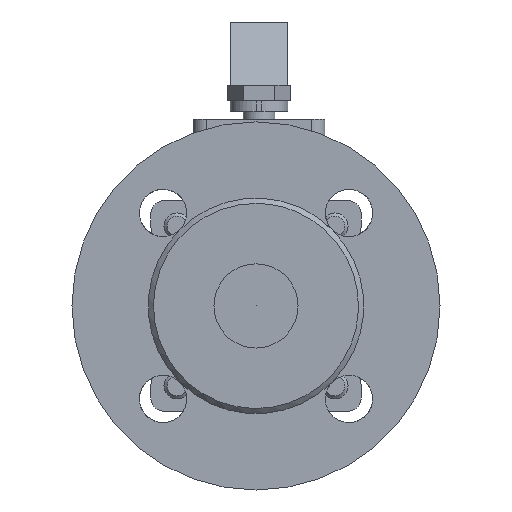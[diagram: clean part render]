
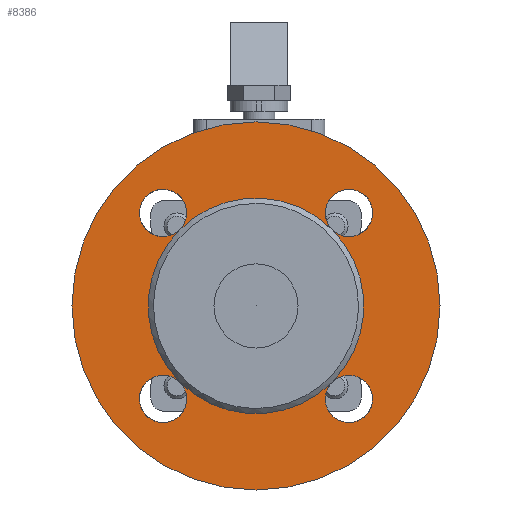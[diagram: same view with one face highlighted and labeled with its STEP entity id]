
A CAD part, left-side view. The second image highlights one B-rep face of the part: STEP entity #8386.
In plain terms, the highlighted planar face has unit normal (-1, 0, 0).
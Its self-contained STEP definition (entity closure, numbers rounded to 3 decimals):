
#8386=ADVANCED_FACE('',(#15657,#15659),#15661,.T.);
#15657=FACE_BOUND('',#15658,.T.);
#15658=EDGE_LOOP('',(#21665,#21666));
#15659=FACE_BOUND('',#15660,.T.);
#15660=EDGE_LOOP('',(#21667,#21668,#21669,#21670,#21671,#21672,#21673,#21674,#21675,
#21676,#21677,#21678,#21679));
#15661=PLANE('',#15662);
#15662=AXIS2_PLACEMENT_3D('',#15663,#15664,#15665);
#15663=CARTESIAN_POINT('',(3152.18,1282.841,79.001));
#15664=DIRECTION('',(-1.,0.,0.));
#15665=DIRECTION('',(0.,-1.,0.));
#21665=ORIENTED_EDGE('',*,*,#24748,.F.);
#21666=ORIENTED_EDGE('',*,*,#24747,.F.);
#21667=ORIENTED_EDGE('',*,*,#24753,.T.);
#21668=ORIENTED_EDGE('',*,*,#24752,.T.);
#21669=ORIENTED_EDGE('',*,*,#24756,.T.);
#21670=ORIENTED_EDGE('',*,*,#24757,.T.);
#21671=ORIENTED_EDGE('',*,*,#24751,.T.);
#21672=ORIENTED_EDGE('',*,*,#24758,.T.);
#21673=ORIENTED_EDGE('',*,*,#24759,.T.);
#21674=ORIENTED_EDGE('',*,*,#24750,.T.);
#21675=ORIENTED_EDGE('',*,*,#24760,.T.);
#21676=ORIENTED_EDGE('',*,*,#24761,.T.);
#21677=ORIENTED_EDGE('',*,*,#24749,.T.);
#21678=ORIENTED_EDGE('',*,*,#24762,.T.);
#21679=ORIENTED_EDGE('',*,*,#24763,.T.);
#24747=EDGE_CURVE('',#29340,#29341,#29342,.T.);
#24748=EDGE_CURVE('',#29341,#29340,#29343,.T.);
#24749=EDGE_CURVE('',#29344,#29345,#29346,.T.);
#24750=EDGE_CURVE('',#29347,#29344,#29348,.T.);
#24751=EDGE_CURVE('',#29349,#29347,#29350,.T.);
#24752=EDGE_CURVE('',#29351,#29349,#29352,.T.);
#24753=EDGE_CURVE('',#29345,#29351,#29353,.T.);
#24756=EDGE_CURVE('',#29349,#29358,#29359,.T.);
#24757=EDGE_CURVE('',#29358,#29349,#29360,.T.);
#24758=EDGE_CURVE('',#29347,#29361,#29362,.T.);
#24759=EDGE_CURVE('',#29361,#29347,#29363,.T.);
#24760=EDGE_CURVE('',#29344,#29364,#29365,.T.);
#24761=EDGE_CURVE('',#29364,#29344,#29366,.T.);
#24762=EDGE_CURVE('',#29345,#29367,#29368,.T.);
#24763=EDGE_CURVE('',#29367,#29345,#29369,.T.);
#29340=VERTEX_POINT('',#40397);
#29341=VERTEX_POINT('',#40398);
#29342=CIRCLE('',#40399,70.);
#29343=CIRCLE('',#40403,70.);
#29344=VERTEX_POINT('',#40407);
#29345=VERTEX_POINT('',#40408);
#29346=CIRCLE('',#40409,41.);
#29347=VERTEX_POINT('',#40413);
#29348=CIRCLE('',#40414,41.);
#29349=VERTEX_POINT('',#40418);
#29350=CIRCLE('',#40419,41.);
#29351=VERTEX_POINT('',#40423);
#29352=CIRCLE('',#40424,41.);
#29353=CIRCLE('',#40428,41.);
#29358=VERTEX_POINT('',#40442);
#29359=CIRCLE('',#40443,9.);
#29360=CIRCLE('',#40447,9.);
#29361=VERTEX_POINT('',#40451);
#29362=CIRCLE('',#40452,9.);
#29363=CIRCLE('',#40456,9.);
#29364=VERTEX_POINT('',#40460);
#29365=CIRCLE('',#40461,9.);
#29366=CIRCLE('',#40465,9.);
#29367=VERTEX_POINT('',#40469);
#29368=CIRCLE('',#40470,9.);
#29369=CIRCLE('',#40474,9.);
#40397=CARTESIAN_POINT('',(3152.18,1282.841,79.001));
#40398=CARTESIAN_POINT('',(3152.18,1282.841,-60.999));
#40399=AXIS2_PLACEMENT_3D('',#40400,#40401,#40402);
#40400=CARTESIAN_POINT('',(3152.18,1282.841,9.001));
#40401=DIRECTION('',(1.,0.,0.));
#40402=DIRECTION('',(0.,0.,1.));
#40403=AXIS2_PLACEMENT_3D('',#40404,#40405,#40406);
#40404=CARTESIAN_POINT('',(3152.18,1282.841,9.001));
#40405=DIRECTION('',(1.,0.,0.));
#40406=DIRECTION('',(0.,0.,-1.));
#40407=CARTESIAN_POINT('',(3152.18,1311.832,-19.99));
#40408=CARTESIAN_POINT('',(3152.18,1311.832,37.993));
#40409=AXIS2_PLACEMENT_3D('',#40410,#40411,#40412);
#40410=CARTESIAN_POINT('',(3152.18,1282.841,9.001));
#40411=DIRECTION('',(1.,0.,0.));
#40412=DIRECTION('',(0.,0.707,-0.707));
#40413=CARTESIAN_POINT('',(3152.18,1253.85,-19.99));
#40414=AXIS2_PLACEMENT_3D('',#40415,#40416,#40417);
#40415=CARTESIAN_POINT('',(3152.18,1282.841,9.001));
#40416=DIRECTION('',(1.,0.,0.));
#40417=DIRECTION('',(0.,-0.707,-0.707));
#40418=CARTESIAN_POINT('',(3152.18,1253.85,37.993));
#40419=AXIS2_PLACEMENT_3D('',#40420,#40421,#40422);
#40420=CARTESIAN_POINT('',(3152.18,1282.841,9.001));
#40421=DIRECTION('',(1.,0.,0.));
#40422=DIRECTION('',(0.,-0.707,0.707));
#40423=CARTESIAN_POINT('',(3152.18,1267.151,46.88));
#40424=AXIS2_PLACEMENT_3D('',#40425,#40426,#40427);
#40425=CARTESIAN_POINT('',(3152.18,1282.841,9.001));
#40426=DIRECTION('',(1.,0.,0.));
#40427=DIRECTION('',(0.,-0.383,0.924));
#40428=AXIS2_PLACEMENT_3D('',#40429,#40430,#40431);
#40429=CARTESIAN_POINT('',(3152.18,1282.841,9.001));
#40430=DIRECTION('',(1.,0.,0.));
#40431=DIRECTION('',(0.,0.707,0.707));
#40442=CARTESIAN_POINT('',(3152.18,1250.93,36.042));
#40443=AXIS2_PLACEMENT_3D('',#40444,#40445,#40446);
#40444=CARTESIAN_POINT('',(3152.18,1247.486,44.357));
#40445=DIRECTION('',(1.,0.,0.));
#40446=DIRECTION('',(0.,0.707,-0.707));
#40447=AXIS2_PLACEMENT_3D('',#40448,#40449,#40450);
#40448=CARTESIAN_POINT('',(3152.18,1247.486,44.357));
#40449=DIRECTION('',(1.,0.,0.));
#40450=DIRECTION('',(0.,0.383,-0.924));
#40451=CARTESIAN_POINT('',(3152.18,1255.801,-29.798));
#40452=AXIS2_PLACEMENT_3D('',#40453,#40454,#40455);
#40453=CARTESIAN_POINT('',(3152.18,1247.486,-26.354));
#40454=DIRECTION('',(1.,0.,0.));
#40455=DIRECTION('',(0.,0.707,0.707));
#40456=AXIS2_PLACEMENT_3D('',#40457,#40458,#40459);
#40457=CARTESIAN_POINT('',(3152.18,1247.486,-26.354));
#40458=DIRECTION('',(1.,0.,0.));
#40459=DIRECTION('',(0.,0.924,-0.383));
#40460=CARTESIAN_POINT('',(3152.18,1326.511,-22.91));
#40461=AXIS2_PLACEMENT_3D('',#40462,#40463,#40464);
#40462=CARTESIAN_POINT('',(3152.18,1318.196,-26.354));
#40463=DIRECTION('',(1.,0.,0.));
#40464=DIRECTION('',(0.,-0.707,0.707));
#40465=AXIS2_PLACEMENT_3D('',#40466,#40467,#40468);
#40466=CARTESIAN_POINT('',(3152.18,1318.196,-26.354));
#40467=DIRECTION('',(1.,0.,0.));
#40468=DIRECTION('',(0.,0.924,0.383));
#40469=CARTESIAN_POINT('',(3152.18,1321.641,52.672));
#40470=AXIS2_PLACEMENT_3D('',#40471,#40472,#40473);
#40471=CARTESIAN_POINT('',(3152.18,1318.196,44.357));
#40472=DIRECTION('',(1.,0.,0.));
#40473=DIRECTION('',(0.,-0.707,-0.707));
#40474=AXIS2_PLACEMENT_3D('',#40475,#40476,#40477);
#40475=CARTESIAN_POINT('',(3152.18,1318.196,44.357));
#40476=DIRECTION('',(1.,0.,0.));
#40477=DIRECTION('',(0.,0.383,0.924));
